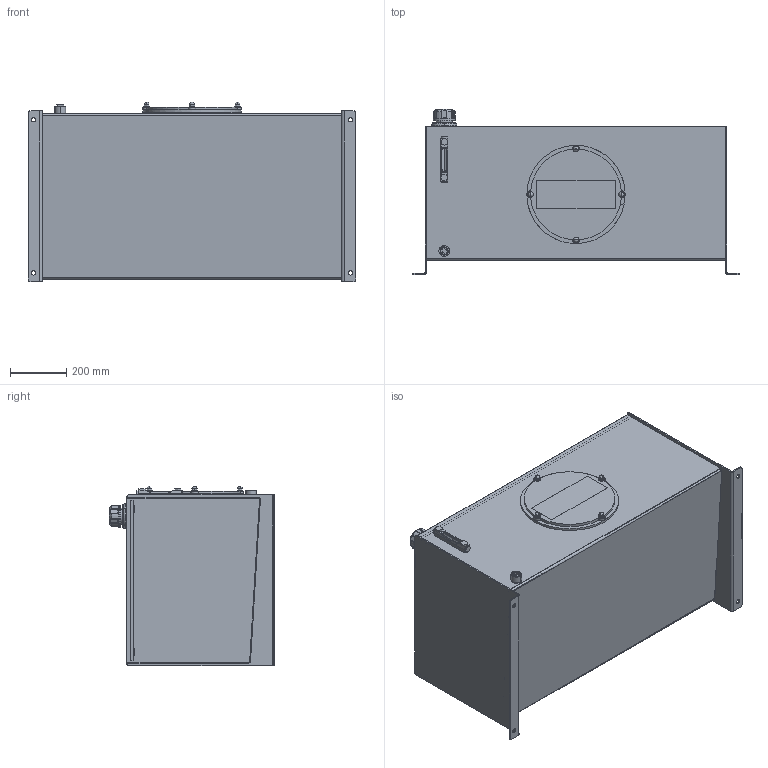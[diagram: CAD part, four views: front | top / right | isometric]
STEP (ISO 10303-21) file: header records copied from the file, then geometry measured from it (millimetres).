
FILE_DESCRIPTION (( 'STEP AP214' ), '1' );
FILE_NAME ('RDIN060-CFA.STEP', '2021-10-18T13:58:54', ( 'Windows User' ), ( '' ), 'SwSTEP 2.0', 'SolidWorks 2020', '' );
FILE_SCHEMA (( 'AUTOMOTIVE_DESIGN' ));
Length unit declared in the file: inch
Products named in the file (21): RDIN060-CFA-LEND; RDIN060-CFA-BODY_RJIC020-BODY; Weld Riser; WFZM010; NAC100-15-Z; REC-M350K; RHJ-PLUG-200; FB-S-W; 8162-008-2_4534K45; BHS8100-15350; RDIN060-CFA-REND; FB-H008W; PLLG-05T; RDIN060-QSTSBUR00080008; RHJ-PLUG-016; RDIN060-CFA-TOP; REC-M350C-4; FB-C-H_FB-H008W; RDIN060-CFA; FB-F008_FB-F-008; S12
Assembly tree (26 placements, depth 3):
  NAC100-15-Z
  RHJ-PLUG-200
  RHJ-PLUG-016
  RDIN060-CFA
    RDIN060-CFA-BODY_RJIC020-BODY
    RDIN060-CFA-LEND
    RDIN060-CFA-REND
    RDIN060-CFA-TOP
    RDIN060-QSTSBUR00080008  x4
    Weld Riser
    FB-H008W
      FB-F008_FB-F-008
      FB-S-W
      FB-C-H_FB-H008W
    BHS8100-15350  x4
    PLLG-05T
    REC-M350K
      REC-M350C-4
      WFZM010  x4
    S12
    8162-008-2_4534K45
Bounding box: 1168.4 x 590.17 x 640.32 mm (x, y, z)
Volume: 15196739.1 mm3; surface area: 6264515.7 mm2
Topology: 31 solids, 31 shells, 1026 faces, 2400 edges, 1434 vertices
Faces by surface type: cylinder 359, plane 341, torus 102, bspline 88, cone 88, sphere 48
Entity records: 32754 total; most frequent: CARTESIAN_POINT 9290, DIRECTION 4820, ORIENTED_EDGE 4440, EDGE_CURVE 2220, AXIS2_PLACEMENT_3D 1942, VERTEX_POINT 1332, EDGE_LOOP 1074, CIRCLE 1048
